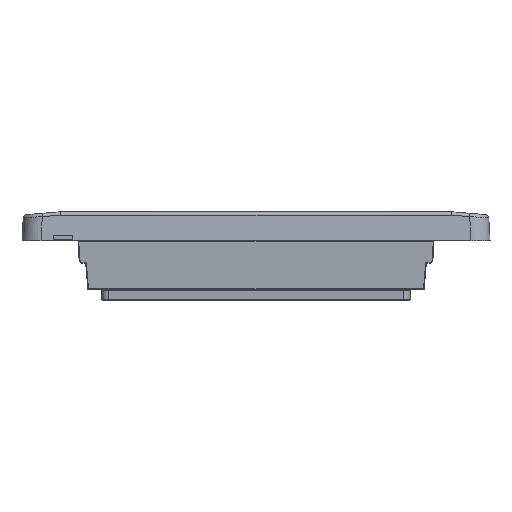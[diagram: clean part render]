
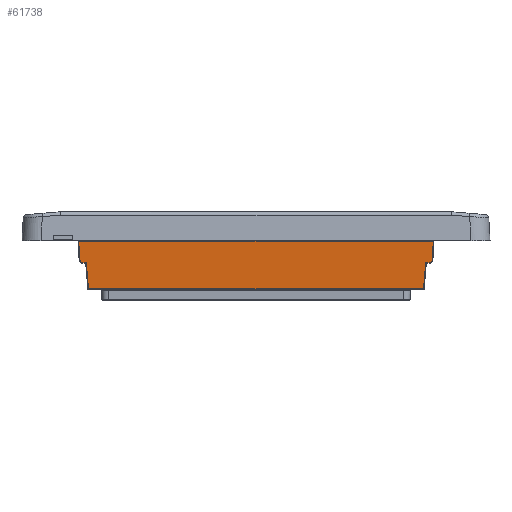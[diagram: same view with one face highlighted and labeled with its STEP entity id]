
A CAD part, front view. The second image highlights one B-rep face of the part: STEP entity #61738.
In plain terms, the highlighted free-form (B-spline) face has degree [1, 1] with [2, 2] control points.
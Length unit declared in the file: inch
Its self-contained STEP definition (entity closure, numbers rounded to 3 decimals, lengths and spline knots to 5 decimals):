
#60372=CARTESIAN_POINT('V1041',(-1.63965,
   -12.11189,0.00948));
#60373=VERTEX_POINT('V1041',#60372);
#60484=CARTESIAN_POINT('V1042',(-1.60378,
   -12.13338,0.41948));
#60485=VERTEX_POINT('V1042',#60484);
#60496=CARTESIAN_POINT('V1050',(-1.55142,
   -12.13338,0.41948));
#60497=VERTEX_POINT('V1050',#60496);
#60498=CARTESIAN_POINT('E1847',(-1.55142,
   -12.13338,0.41948));
#60499=CARTESIAN_POINT('E1847',(-1.60378,
   -12.13338,0.41948));
#60500=B_SPLINE_CURVE_WITH_KNOTS('E1847',1,(#60498,#60499),
   .POLYLINE_FORM.,.F.,.U.,(2,2),(2.,
   5.44846),.UNSPECIFIED.);
#60501=EDGE_CURVE('E1847',#60497,#60485,#60500,.T.);
#60554=CARTESIAN_POINT('V1049',(-1.50149,
   -12.13586,0.46686));
#60555=VERTEX_POINT('V1049',#60554);
#60556=CARTESIAN_POINT('E1846',(-1.50149,
   -12.13586,0.46686));
#60557=CARTESIAN_POINT('E1846',(-1.50182,
   -12.13553,0.46055));
#60558=CARTESIAN_POINT('E1846',(-1.5049,
   -12.13487,0.44804));
#60559=CARTESIAN_POINT('E1846',(-1.51615,
   -12.13405,0.43234));
#60560=CARTESIAN_POINT('E1846',(-1.53242,
   -12.1335,0.42191));
#60561=CARTESIAN_POINT('E1846',(-1.54509,
   -12.13338,0.41948));
#60562=CARTESIAN_POINT('E1846',(-1.55142,
   -12.13338,0.41948));
#60563=B_SPLINE_CURVE_WITH_KNOTS('E1846',3,(#60556,#60557,#60558,
   #60559,#60560,#60561,#60562),.UNSPECIFIED.,.F.,.U.,(4,1,1,1,4),(
   2.0,3.21085,4.42163,5.63243,
   6.84317),.UNSPECIFIED.);
#60564=EDGE_CURVE('E1846',#60555,#60497,#60563,.T.);
#60684=CARTESIAN_POINT('V1047',(-7.06465,
   -12.15125,0.76052));
#60685=VERTEX_POINT('V1047',#60684);
#60694=CARTESIAN_POINT('V1046',(-7.04926,
   -12.13586,0.46686));
#60695=VERTEX_POINT('V1046',#60694);
#60696=CARTESIAN_POINT('E1843',(-7.04926,
   -12.13586,0.46686));
#60697=CARTESIAN_POINT('E1843',(-7.06465,
   -12.15125,0.76052));
#60698=B_SPLINE_CURVE_WITH_KNOTS('E1843',1,(#60696,#60697),
   .POLYLINE_FORM.,.F.,.U.,(2,2),(2.0,20.77922),
   .UNSPECIFIED.);
#60699=EDGE_CURVE('E1843',#60695,#60685,#60698,.T.);
#60747=CARTESIAN_POINT('V1045',(-6.99933,
   -12.13338,0.41948));
#60748=VERTEX_POINT('V1045',#60747);
#60764=CARTESIAN_POINT('E1842',(-6.99933,
   -12.13338,0.41948));
#60765=CARTESIAN_POINT('E1842',(-7.00565,
   -12.13338,0.41948));
#60766=CARTESIAN_POINT('E1842',(-7.01832,
   -12.1335,0.42191));
#60767=CARTESIAN_POINT('E1842',(-7.03459,
   -12.13405,0.43234));
#60768=CARTESIAN_POINT('E1842',(-7.04584,
   -12.13487,0.44804));
#60769=CARTESIAN_POINT('E1842',(-7.04893,
   -12.13553,0.46055));
#60770=CARTESIAN_POINT('E1842',(-7.04926,
   -12.13586,0.46686));
#60771=B_SPLINE_CURVE_WITH_KNOTS('E1842',3,(#60764,#60765,#60766,
   #60767,#60768,#60769,#60770),.UNSPECIFIED.,.F.,.U.,(4,1,1,1,4),(
   2.0,3.21074,4.42154,5.63232,
   6.84317),.UNSPECIFIED.);
#60772=EDGE_CURVE('E1842',#60748,#60695,#60771,.T.);
#60799=CARTESIAN_POINT('V1044',(-6.94696,
   -12.13338,0.41948));
#60800=VERTEX_POINT('V1044',#60799);
#60817=CARTESIAN_POINT('E1841',(-6.94696,
   -12.13338,0.41948));
#60818=CARTESIAN_POINT('E1841',(-6.99933,
   -12.13338,0.41948));
#60819=B_SPLINE_CURVE_WITH_KNOTS('E1841',1,(#60817,#60818),
   .POLYLINE_FORM.,.F.,.U.,(2,2),(2.,
   5.44846),.UNSPECIFIED.);
#60820=EDGE_CURVE('E1841',#60800,#60748,#60819,.T.);
#60854=CARTESIAN_POINT('V1043',(-6.91109,
   -12.11189,0.00948));
#60855=VERTEX_POINT('V1043',#60854);
#60856=CARTESIAN_POINT('E1840',(-6.91109,
   -12.11189,0.00948));
#60857=CARTESIAN_POINT('E1840',(-6.94696,
   -12.13338,0.41948));
#60858=B_SPLINE_CURVE_WITH_KNOTS('E1840',1,(#60856,#60857),
   .POLYLINE_FORM.,.F.,.U.,(2,2),(2.58585,
   28.89906),.UNSPECIFIED.);
#60859=EDGE_CURVE('E1840',#60855,#60800,#60858,.T.);
#61284=CARTESIAN_POINT('V1048',(-1.4861,
   -12.15125,0.76052));
#61285=VERTEX_POINT('V1048',#61284);
#61299=CARTESIAN_POINT('E1844',(-7.06465,
   -12.15125,0.76052));
#61300=CARTESIAN_POINT('E1844',(-1.4861,
   -12.15125,0.76052));
#61301=QUASI_UNIFORM_CURVE('E1844',1,(#61299,#61300),.POLYLINE_FORM.,
   .F.,.U.);
#61302=EDGE_CURVE('E1844',#60685,#61285,#61301,.T.);
#61394=CARTESIAN_POINT('E1845',(-1.4861,
   -12.15125,0.76052));
#61395=CARTESIAN_POINT('E1845',(-1.50149,
   -12.13586,0.46686));
#61396=B_SPLINE_CURVE_WITH_KNOTS('E1845',1,(#61394,#61395),
   .POLYLINE_FORM.,.F.,.U.,(2,2),(2.0,20.77922),
   .UNSPECIFIED.);
#61397=EDGE_CURVE('E1845',#61285,#60555,#61396,.T.);
#61707=CARTESIAN_POINT('E1838',(-1.60378,
   -12.13338,0.41948));
#61708=CARTESIAN_POINT('E1838',(-1.63965,
   -12.11189,0.00948));
#61709=B_SPLINE_CURVE_WITH_KNOTS('E1838',1,(#61707,#61708),
   .POLYLINE_FORM.,.F.,.U.,(2,2),(2.58585,
   28.89906),.UNSPECIFIED.);
#61710=EDGE_CURVE('E1838',#60485,#60373,#61709,.T.);
#61717=CARTESIAN_POINT('F763',(-7.22456,
   -12.15726,0.87511));
#61718=CARTESIAN_POINT('F763',(-1.32618,
   -12.15726,0.87511));
#61719=CARTESIAN_POINT('F763',(-7.22456,
   -12.11119,-0.00393));
#61720=CARTESIAN_POINT('F763',(-1.32618,
   -12.11119,-0.00393));
#61721=B_SPLINE_SURFACE_WITH_KNOTS('F763',1,1,((#61717,#61719),(
   #61718,#61720)),.PLANE_SURF.,.F.,.F.,.U.,(2,2),(2,2),(0.0,
   6.7008),(0.0,1.0),.UNSPECIFIED.);
#61722=ORIENTED_EDGE('E1838',*,*,#61710,.T.);
#61723=CARTESIAN_POINT('E1839',(-1.63965,
   -12.11189,0.00948));
#61724=CARTESIAN_POINT('E1839',(-6.91109,
   -12.11189,0.00948));
#61725=QUASI_UNIFORM_CURVE('E1839',1,(#61723,#61724),.POLYLINE_FORM.,
   .F.,.U.);
#61726=EDGE_CURVE('E1839',#60373,#60855,#61725,.T.);
#61727=ORIENTED_EDGE('E1839',*,*,#61726,.T.);
#61728=ORIENTED_EDGE('E1840',*,*,#60859,.T.);
#61729=ORIENTED_EDGE('F1390',*,*,#60820,.T.);
#61730=ORIENTED_EDGE('F1389',*,*,#60772,.T.);
#61731=ORIENTED_EDGE('E1843',*,*,#60699,.T.);
#61732=ORIENTED_EDGE('E1844',*,*,#61302,.T.);
#61733=ORIENTED_EDGE('F1036',*,*,#61397,.T.);
#61734=ORIENTED_EDGE('E1846',*,*,#60564,.T.);
#61735=ORIENTED_EDGE('E1847',*,*,#60501,.T.);
#61736=EDGE_LOOP('F763',(#61722,#61727,#61728,#61729,#61730,#61731,
   #61732,#61733,#61734,#61735));
#61737=FACE_OUTER_BOUND('F763',#61736,.F.);
#61738=ADVANCED_FACE('F763',(#61737),#61721,.F.);
